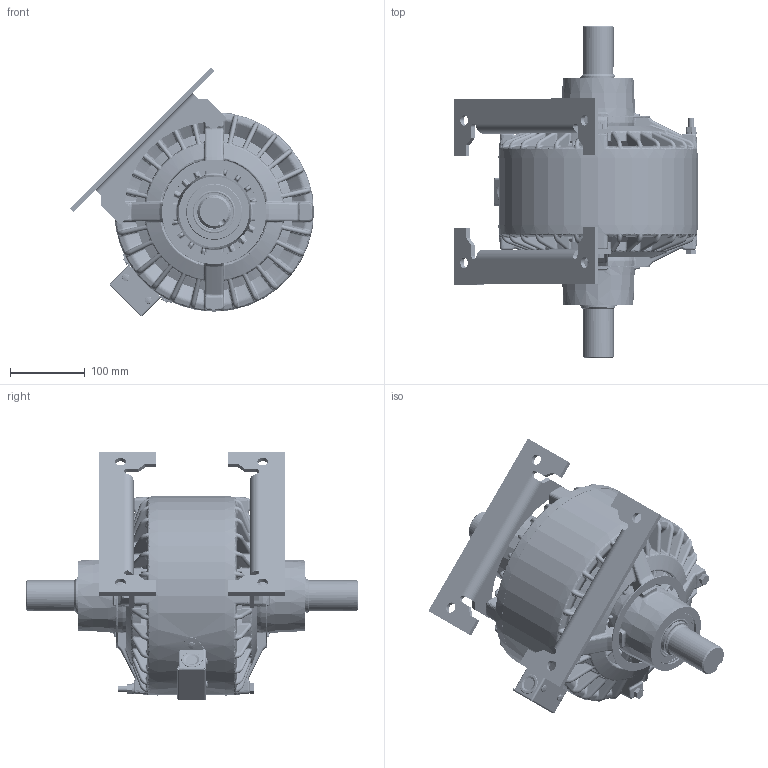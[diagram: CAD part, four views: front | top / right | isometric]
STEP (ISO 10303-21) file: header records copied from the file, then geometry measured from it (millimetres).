
FILE_DESCRIPTION(/* description */ ('STEP AP214'),/* implementation_level */ '2;1');
FILE_NAME(/* name */ '100MC90B20_stp.step',/* time_stamp */ '2026-05-13T13:50:26-05:00',/* author */ (''),/* organization */ (''),/* preprocessor_version */ 'ST-DEVELOPER v20.1',/* originating_system */ 'Autodesk Translation Framework v15.8.0.0',/* authorisation */ '');
FILE_SCHEMA (('AUTOMOTIVE_DESIGN { 1 0 10303 214 3 1 1 }'));
Products named in the file (1): 100MC90B20_asm_stp
Bounding box: 326.81 x 444.55 x 333.09 mm (x, y, z)
Volume: 5150509.4 mm3; surface area: 1000047.3 mm2
Topology: 6 solids, 13 shells, 4467 faces, 11276 edges, 6543 vertices
Faces by surface type: bspline 1614, cylinder 1078, plane 951, torus 521, cone 263, sphere 40
Full cylindrical faces by diameter (mm): 3.795 x4, 4.039 x4, 6.35 x6, 7.938 x8, 9.474 x4, 9.525 x6, 12.7 x1, 14.275 x4, 17.475 x2, 22.225 x3, 31.75 x1, 41.237 x2, 42.469 x5, 43.663 x2, 45.009 x12, 51 x8, 66.9 x4, 69 x8, 71.425 x1, 75 x2, 75.006 x2, 117.475 x2, 132.588 x2, 139.7 x2, 142.062 x2, 161.925 x2, 163.309 x2, 234.912 x2, 235.141 x1, 266.7 x1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
Entity records: 204640 total; most frequent: CARTESIAN_POINT 108955, ORIENTED_EDGE 22132, DIRECTION 17840, EDGE_CURVE 11066, AXIS2_PLACEMENT_3D 7413, VERTEX_POINT 6551, EDGE_LOOP 4613, FACE_OUTER_BOUND 4467
